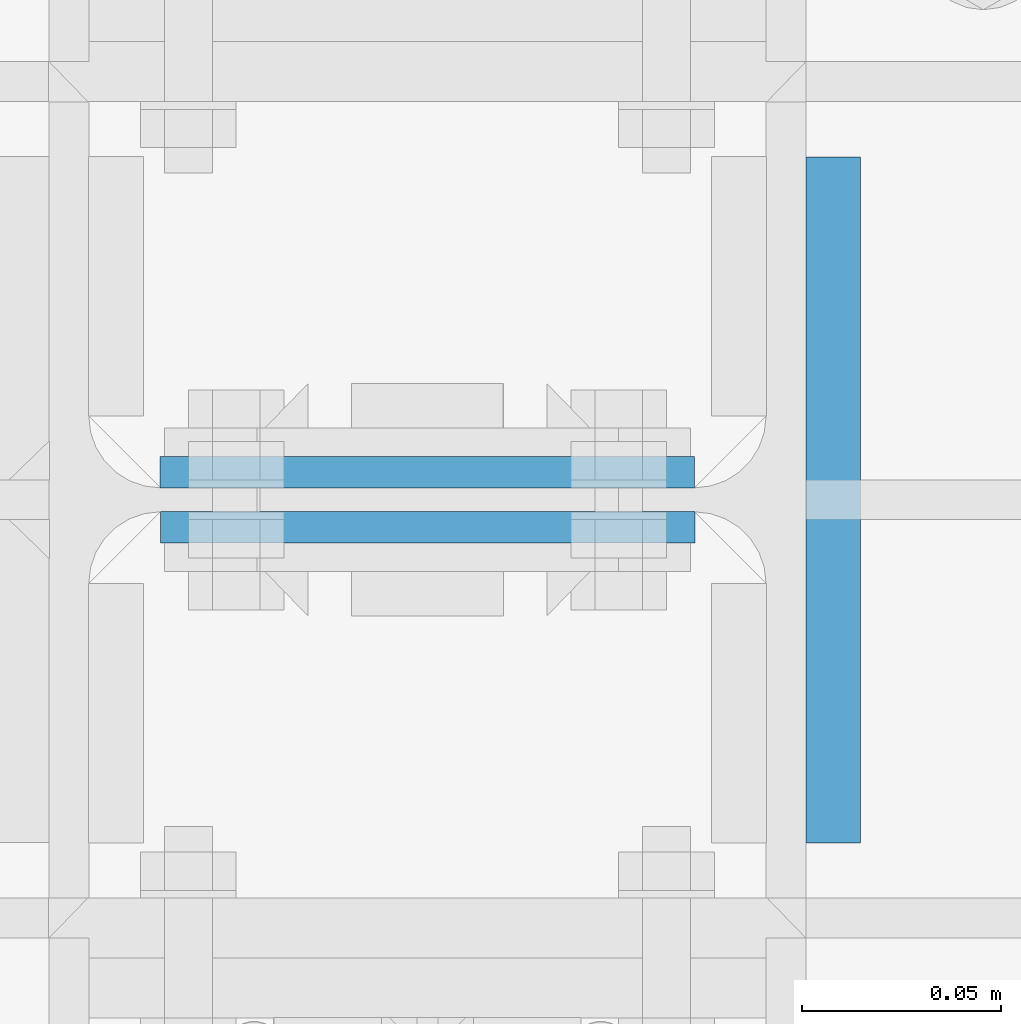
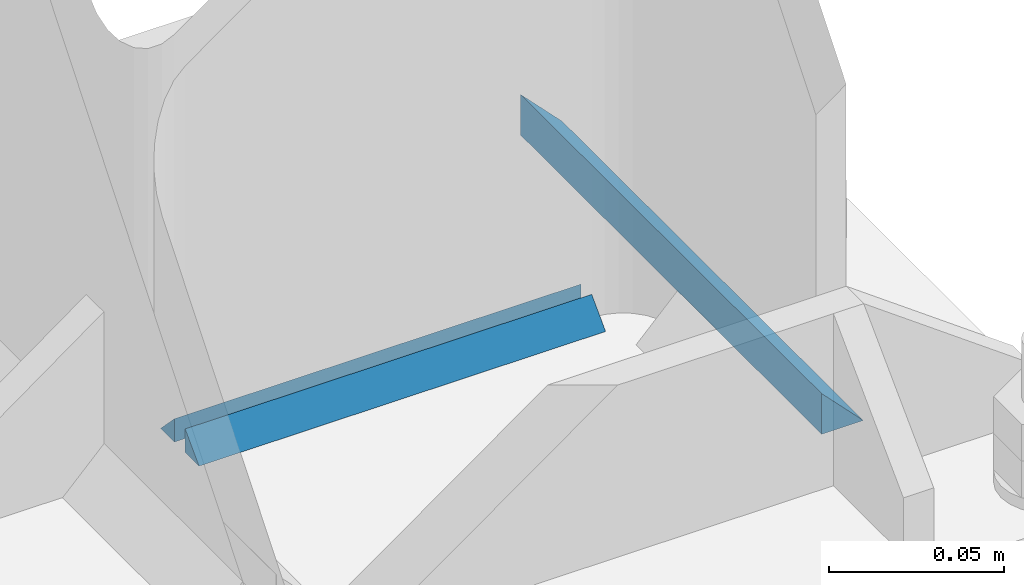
# One storey, part 46 of 251: 6 fasteners.
"""IFC4 building model written with IfcOpenShell, lengths in metres."""

from ifc_helpers import new_model, si_unit, frame, origin_with_axes, place, context, project, spatial, polyline, outline, extrude, type_object, element, save


model = new_model("IFC4")

# Units and contexts
model_context = context("Model", 3, precision=1e-05, world=origin_with_axes())
ifc_project = project(units=[si_unit("LENGTHUNIT", "METRE"), si_unit("AREAUNIT", "SQUARE_METRE"), si_unit("VOLUMEUNIT", "CUBIC_METRE"), si_unit("MASSUNIT", "GRAM", prefix="KILO"), si_unit("TIMEUNIT", "SECOND"), si_unit("PLANEANGLEUNIT", "RADIAN"), si_unit("SOLIDANGLEUNIT", "STERADIAN"), si_unit("THERMODYNAMICTEMPERATUREUNIT", "DEGREE_CELSIUS")], contexts=[model_context])

# Site, building, storey
placement_1 = place(None, origin_with_axes())
site = spatial("IfcSite", under=ifc_project, at=placement_1, Name="Italia", CompositionType="ELEMENT")
building = spatial("IfcBuilding", under=site, at=placement_1, Name="Deposito", CompositionType="ELEMENT")
storey = spatial("IfcBuildingStorey", under=building, at=placement_1, Name="Storey 0", CompositionType="ELEMENT", Elevation=0.0)

# Fasteners
fastener_type_1 = type_object("IfcFastenerType", Name="Collegamenti 0014_-001 0016_-054 0018_-056 0032_-002 0033_-058 0047_-003 0048_-060 0062_-004 0063_-005 0079_-008", PredefinedType="WELD")
placement_2 = place(placement_1, origin_with_axes())
fastener_1_placement = place(placement_2, origin_with_axes())
element("IfcFastener", 1, at=fastener_1_placement, inside=storey, type_object=fastener_type_1, Name="Collegamenti 0014_-001 0016_-054 0018_-056 0032_-002 0033_-058 0047_-003 0048_-060 0062_-004 0063_-005 0079_-008", context=model_context, shape_type="SweptSolid", body=[
    extrude(outline(polyline([(0.0, 0.0), (0.0137482, 0.0141734), (0.0137482, 0.0), (0.0, 0.0)])), frame((20.1087, 14.9139, 0.07495), z_axis=(0.0, 1.0, 0.0), x_axis=(-1.0, 0.0, 0.0)), (0.0, 0.0, 1.0), 0.1721),
])
fastener_type_2 = type_object("IfcFastenerType", Name="Collegamenti 0014_-001 0016_-054 0018_-056 0032_-002 0033_-058 0047_-003 0048_-060 0062_-004 0063_-005 0079_-008", PredefinedType="WELD")
fastener_2_placement = place(placement_2, origin_with_axes())
element("IfcFastener", 2, at=fastener_2_placement, inside=storey, type_object=fastener_type_2, Name="Collegamenti 0014_-001 0016_-054 0018_-056 0032_-002 0033_-058 0047_-003 0048_-060 0062_-004 0063_-005 0079_-008", context=model_context, shape_type="SweptSolid", body=[
    extrude(outline(polyline([(0.0, 0.0), (0.00792885, 0.00817336), (0.00792885, 0.0), (0.0, 0.0)])), frame((20.067, 15.0109, 0.07495), z_axis=(-1.0, 0.0, 0.0), x_axis=(0.0, -1.0, 0.0)), (0.0, 0.0, 1.0), 0.134098),
])
fastener_type_3 = type_object("IfcFastenerType", Name="Collegamenti 0014_-001 0016_-054 0018_-056 0032_-002 0033_-058 0047_-003 0048_-060 0062_-004 0063_-005 0079_-008", PredefinedType="WELD")
fastener_3_placement = place(placement_2, origin_with_axes())
element("IfcFastener", 3, at=fastener_3_placement, inside=storey, type_object=fastener_type_3, Name="Collegamenti 0014_-001 0016_-054 0018_-056 0032_-002 0033_-058 0047_-003 0048_-060 0062_-004 0063_-005 0079_-008", context=model_context, shape_type="SweptSolid", body=[
    extrude(outline(polyline([(0.0, 0.0), (0.00792885, 0.00817336), (0.00792885, 0.0), (0.0, 0.0)])), frame((19.933, 14.9891, 0.07495), z_axis=(1.0, 0.0, 0.0), x_axis=(0.0, 1.0, 0.0)), (0.0, 0.0, 1.0), 0.134098),
])
fastener_type_4 = type_object("IfcFastenerType", Name="Collegamenti 0014_-001 0016_-054 0018_-056 0032_-002 0033_-058 0047_-003 0048_-060 0062_-004 0063_-005 0079_-008", PredefinedType="WELD")
fastener_4_placement = place(placement_2, origin_with_axes())
element("IfcFastener", 4, at=fastener_4_placement, inside=storey, type_object=fastener_type_4, Name="Collegamenti 0014_-001 0016_-054 0018_-056 0032_-002 0033_-058 0047_-003 0048_-060 0062_-004 0063_-005 0079_-008", context=model_context, shape_type="SweptSolid", body=[
    extrude(outline(polyline([(0.0, 0.0), (0.0137482, 0.0141734), (0.0137482, 0.0), (0.0, 0.0)])), frame((20.1087, 14.9139, 0.07495), z_axis=(0.0, 1.0, 0.0), x_axis=(-1.0, 0.0, 0.0)), (0.0, 0.0, 1.0), 0.1721),
])
fastener_type_5 = type_object("IfcFastenerType", Name="Collegamenti 0014_-001 0016_-054 0018_-056 0032_-002 0033_-058 0047_-003 0048_-060 0062_-004 0063_-005 0079_-008", PredefinedType="WELD")
fastener_5_placement = place(placement_2, origin_with_axes())
element("IfcFastener", 5, at=fastener_5_placement, inside=storey, type_object=fastener_type_5, Name="Collegamenti 0014_-001 0016_-054 0018_-056 0032_-002 0033_-058 0047_-003 0048_-060 0062_-004 0063_-005 0079_-008", context=model_context, shape_type="SweptSolid", body=[
    extrude(outline(polyline([(0.0, 0.0), (0.00792885, 0.00817336), (0.00792885, 0.0), (0.0, 0.0)])), frame((20.067, 15.0109, 0.07495), z_axis=(-1.0, 0.0, 0.0), x_axis=(0.0, -1.0, 0.0)), (0.0, 0.0, 1.0), 0.134098),
])
fastener_type_6 = type_object("IfcFastenerType", Name="Collegamenti 0014_-001 0016_-054 0018_-056 0032_-002 0033_-058 0047_-003 0048_-060 0062_-004 0063_-005 0079_-008", PredefinedType="WELD")
fastener_6_placement = place(placement_2, origin_with_axes())
element("IfcFastener", 6, at=fastener_6_placement, inside=storey, type_object=fastener_type_6, Name="Collegamenti 0014_-001 0016_-054 0018_-056 0032_-002 0033_-058 0047_-003 0048_-060 0062_-004 0063_-005 0079_-008", context=model_context, shape_type="SweptSolid", body=[
    extrude(outline(polyline([(0.0, 0.0), (0.00792885, 0.00817336), (0.00792885, 0.0), (0.0, 0.0)])), frame((19.933, 14.9891, 0.07495), z_axis=(1.0, 0.0, 0.0), x_axis=(0.0, 1.0, 0.0)), (0.0, 0.0, 1.0), 0.134098),
])

save(model, "model.ifc")
